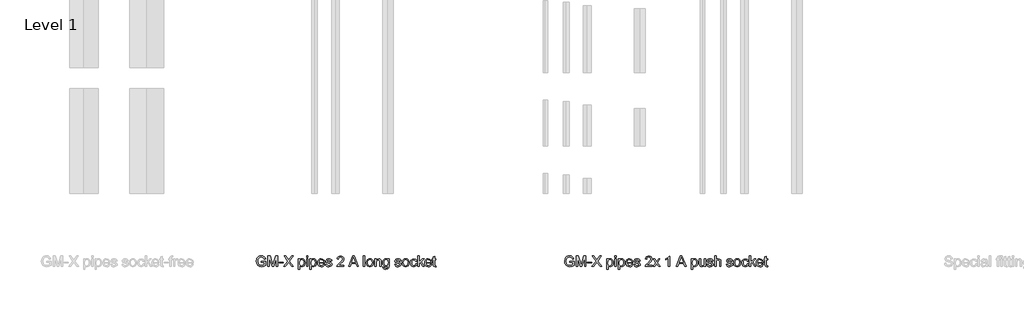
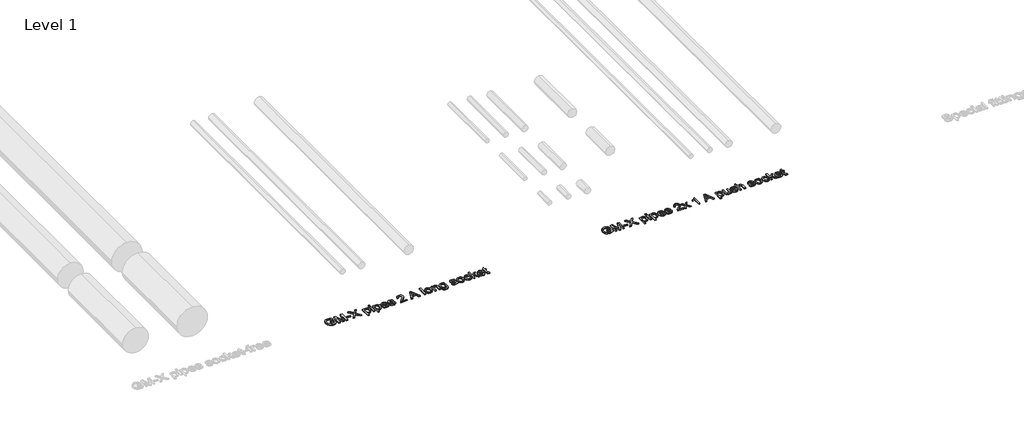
# One storey, part 7 of 8: 2 proxies.
"""IFC4 building model written with IfcOpenShell, lengths in millimetres."""

from ifc_helpers import new_model, si_unit, origin, origin_with_axes, place, context, project, spatial, polyline, outline, extrude, element, save

model = new_model("IFC4")

# Units and contexts
model_context = context("Model", 3, world=origin())
ifc_project = project(units=[si_unit("LENGTHUNIT", "METRE", prefix="MILLI")], contexts=[model_context])

# Site, building, storey
site = spatial("IfcSite", under=ifc_project)
building = spatial("IfcBuilding", under=site)
storey = spatial("IfcBuildingStorey", under=building, Name="Level 1", Elevation=0.0)

# Proxies
placement = place(None, origin())
element("IfcBuildingElementProxy", 1, Name="100mm ACO", ObjectType="100mm ACO", at=placement, inside=storey, context=model_context, shape_type="SweptSolid", body=[
    extrude(outline(polyline([(10835.1851852, -686.6608796), (10815.7769097, -698.0541088), (10794.6469907, -701.8518519), (10774.2657697, -698.3362269), (10758.2609954, -687.7893519), (10747.8985822, -671.412037), (10744.4444444, -650.4050926), (10750.072338, -623.900463), (10757.0348669, -613.0135995), (10766.6666667, -604.8900463), (10778.8556134, -599.8336227), (10793.4895833, -598.1481481), (10808.3260995, -600.0217014), (10819.9074074, -605.6423611), (10828.2407407, -615.0028935), (10833.3333333, -628.0960648), (10820.3703704, -631.4814815), (10816.6124132, -621.7773438), (10810.7204861, -614.8292824), (10802.6945891, -610.651765), (10792.5347222, -609.2592593), (10777.2750289, -612.0659722), (10766.2760417, -620.4861111), (10759.624566, -633.4490741), (10757.4074074, -649.8842593), (10761.791088, -672.4971065), (10774.7974537, -686.1255787), (10793.5474537, -690.7407407), (10808.4129051, -687.9340278), (10822.2222222, -679.5138889), (10822.2222222, -659.2592593), (10792.5925926, -659.2592593), (10792.5925926, -648.1481481), (10835.1851852, -648.1481481), (10835.1851852, -686.6608796)])), origin_with_axes(), (0.0, 0.0, 1.0), 10.0),
    extrude(outline(polyline([(10948.1481481, -700.0), (10935.1851852, -700.0), (10935.1851852, -616.2037037), (10909.6643519, -700.0), (10895.8912037, -700.0), (10868.8946759, -614.84375), (10868.5185185, -700.0), (10855.5555556, -700.0), (10855.5555556, -600.0), (10875.2604167, -600.0), (10898.0902778, -670.8622685), (10902.5173611, -685.6770833), (10907.5231481, -669.6469907), (10928.8773148, -600.0), (10948.1481481, -600.0), (10948.1481481, -700.0)])), origin_with_axes(), (0.0, 0.0, 1.0), 10.0),
    extrude(outline(polyline([(11001.8518519, -666.6666667), (10962.962963, -666.6666667), (10962.962963, -657.4074074), (11001.8518519, -657.4074074), (11001.8518519, -666.6666667)])), origin_with_axes(), (0.0, 0.0, 1.0), 10.0),
    extrude(outline(polyline([(11098.1481481, -700.0), (11082.5231481, -700.0), (11061.6030093, -671.4699074), (11052.5462963, -658.7384259), (11021.3541667, -700.0), (11005.5555556, -700.0), (11044.5023148, -648.0902778), (11009.2592593, -600.0), (11024.8842593, -600.0), (11047.1643519, -630.4108796), (11052.3726852, -637.5578704), (11080.5266204, -600.0), (11096.2962963, -600.0), (11060.1851852, -648.1770833), (11098.1481481, -700.0)])), origin_with_axes(), (0.0, 0.0, 1.0), 10.0),
    extrude(outline(polyline([(11159.3894676, -636.4872685), (11167.8457755, -628.5662616), (11179.5138889, -625.9259259), (11191.8402778, -628.515625), (11201.2731481, -636.2847222), (11207.2627315, -648.2132523), (11209.2592593, -663.28125), (11207.0023148, -679.1702836), (11200.2314815, -691.4207176), (11190.1765046, -699.2440683), (11178.0671296, -701.8518519), (11167.6938657, -699.7251157), (11159.6064815, -693.3449074), (11159.2592593, -727.7777778), (11146.2962963, -727.7777778), (11146.2962963, -627.7777778), (11159.2592593, -627.7777778), (11159.3894676, -636.4872685)]), holes=[polyline([(11176.6493056, -692.5925926), (11184.4220197, -690.766059), (11190.7262731, -685.2864583), (11194.9037905, -676.1899595), (11196.2962963, -663.5127315), (11194.9544271, -651.4359086), (11190.9288194, -642.5202546), (11184.8126447, -637.0189525), (11177.1990741, -635.1851852), (11169.317853, -637.2287326), (11162.9774306, -643.359375), (11158.7999132, -652.7452257), (11157.4074074, -664.5543981), (11158.7420428, -676.66739), (11162.7459491, -685.4600694), (11168.891059, -690.8094618), (11176.6493056, -692.5925926)])]), origin_with_axes(), (0.0, 0.0, 1.0), 10.0),
    extrude(outline(polyline([(11237.037037, -612.962963), (11224.0740741, -612.962963), (11224.0740741, -600.0), (11237.037037, -600.0), (11237.037037, -612.962963)])), origin_with_axes(), (0.0, 0.0, 1.0), 10.0),
    extrude(outline(polyline([(11237.037037, -700.0), (11224.0740741, -700.0), (11224.0740741, -627.7777778), (11237.037037, -627.7777778), (11237.037037, -700.0)])), origin_with_axes(), (0.0, 0.0, 1.0), 10.0),
    extrude(outline(polyline([(11268.6487269, -636.4872685), (11277.1050347, -628.5662616), (11288.7731481, -625.9259259), (11301.099537, -628.515625), (11310.5324074, -636.2847222), (11316.5219907, -648.2132523), (11318.5185185, -663.28125), (11316.2615741, -679.1702836), (11309.4907407, -691.4207176), (11299.4357639, -699.2440683), (11287.3263889, -701.8518519), (11276.953125, -699.7251157), (11268.8657407, -693.3449074), (11268.5185185, -727.7777778), (11255.5555556, -727.7777778), (11255.5555556, -627.7777778), (11268.5185185, -627.7777778), (11268.6487269, -636.4872685)]), holes=[polyline([(11285.9085648, -692.5925926), (11293.6812789, -690.766059), (11299.9855324, -685.2864583), (11304.1630498, -676.1899595), (11305.5555556, -663.5127315), (11304.2136863, -651.4359086), (11300.1880787, -642.5202546), (11294.0719039, -637.0189525), (11286.4583333, -635.1851852), (11278.5771123, -637.2287326), (11272.2366898, -643.359375), (11268.0591725, -652.7452257), (11266.6666667, -664.5543981), (11268.0013021, -676.66739), (11272.0052083, -685.4600694), (11278.1503183, -690.8094618), (11285.9085648, -692.5925926)])]), origin_with_axes(), (0.0, 0.0, 1.0), 10.0),
    extrude(outline(polyline([(11396.2962963, -666.6666667), (11342.5925926, -666.6666667), (11344.6650752, -677.7922454), (11349.3778935, -685.9375), (11356.1595775, -690.9288194), (11364.4386574, -692.5925926), (11376.1140046, -688.9033565), (11383.3333333, -677.7777778), (11396.2962963, -679.2824074), (11391.9198495, -688.9033565), (11384.9826389, -696.0069444), (11375.7378472, -700.390625), (11364.4386574, -701.8518519), (11349.8517072, -699.3453414), (11338.8454861, -691.8258102), (11331.9335938, -679.9660012), (11329.6296296, -664.4386574), (11331.8504051, -648.900463), (11338.5127315, -636.6030093), (11349.2115162, -628.5951968), (11363.5416667, -625.9259259), (11378.7615741, -629.3836806), (11391.1892361, -641.1603009), (11395.0195313, -651.6963252), (11396.2962963, -666.6666667)]), holes=[polyline([(11383.3333333, -657.4074074), (11381.25, -647.2511574), (11376.5046296, -640.3935185), (11363.2233796, -635.1851852), (11355.3674769, -636.7332176), (11349.0451389, -641.3773148), (11342.5925926, -657.4074074), (11383.3333333, -657.4074074)])]), origin_with_axes(), (0.0, 0.0, 1.0), 10.0),
    extrude(outline(polyline([(11451.8518519, -648.1481481), (11447.0630787, -638.4259259), (11435.9953704, -635.1851852), (11424.681713, -637.962963), (11420.3703704, -646.0358796), (11423.2204861, -653.1828704), (11436.6608796, -657.0601852), (11454.3836806, -661.2268519), (11463.4259259, -667.5491898), (11466.6666667, -678.8773148), (11464.6556713, -687.8074363), (11458.6226852, -695.2112269), (11449.2259838, -700.1916956), (11437.1238426, -701.8518519), (11424.6491609, -700.4557292), (11415.234375, -696.2673611), (11408.8722512, -689.2939815), (11405.5555556, -679.5428241), (11418.5185185, -677.7777778), (11424.1174769, -688.9033565), (11437.1238426, -692.5925926), (11449.4212963, -688.7586806), (11453.7037037, -679.4270833), (11451.7795139, -673.4519676), (11446.9762731, -670.0810185), (11433.3912037, -667.1875), (11412.4565972, -659.375), (11407.4074074, -646.7881944), (11409.2773438, -638.5018808), (11414.8871528, -631.8142361), (11423.6581308, -627.3980035), (11435.0115741, -625.9259259), (11446.9437211, -627.2135417), (11455.8883102, -631.0763889), (11461.8453414, -637.5072338), (11464.8148148, -646.4988426), (11451.8518519, -648.1481481)])), origin_with_axes(), (0.0, 0.0, 1.0), 10.0),
    extrude(outline(polyline([(11579.6296296, -700.0), (11512.962963, -700.0), (11518.9236111, -684.4039352), (11540.943287, -662.7893519), (11558.7094907, -645.4571759), (11564.6773727, -636.4293981), (11566.6666667, -627.34375), (11561.2413194, -614.380787), (11547.5405093, -609.2592593), (11533.5069444, -614.3663194), (11529.2390046, -620.7356771), (11527.7777778, -629.6296296), (11514.8148148, -628.2407407), (11517.9542824, -616.1385995), (11525.0, -607.2627315), (11535.2141204, -601.8156829), (11547.8587963, -600.0), (11561.2160012, -602.0869502), (11571.2528935, -608.3478009), (11577.5354456, -617.5600405), (11579.6296296, -628.5011574), (11577.8790509, -638.4042245), (11572.6273148, -648.4375), (11545.1967593, -675.9548611), (11529.6296296, -690.7407407), (11579.6296296, -690.7407407), (11579.6296296, -700.0)])), origin_with_axes(), (0.0, 0.0, 1.0), 10.0),
    extrude(outline(polyline([(11718.9814815, -700.0), (11705.1793981, -700.0), (11693.2002315, -670.3703704), (11650.7523148, -670.3703704), (11639.2361111, -700.0), (11625.462963, -700.0), (11664.3229167, -600.0), (11678.5011574, -600.0), (11718.9814815, -700.0)]), holes=[polyline([(11688.6863426, -659.2592593), (11674.2621528, -622.5983796), (11671.2962963, -610.9375), (11666.6377315, -629.5138889), (11655.0925926, -659.2592593), (11688.6863426, -659.2592593)])]), origin_with_axes(), (0.0, 0.0, 1.0), 10.0),
    extrude(outline(polyline([(11779.6296296, -700.0), (11766.6666667, -700.0), (11766.6666667, -600.0), (11779.6296296, -600.0), (11779.6296296, -700.0)])), origin_with_axes(), (0.0, 0.0, 1.0), 10.0),
    extrude(outline(polyline([(11827.7488426, -625.9259259), (11840.9252025, -628.3203125), (11851.634838, -635.5034722), (11858.7420428, -647.0992477), (11861.1111111, -662.7314815), (11858.5467303, -681.0040509), (11850.853588, -692.9976852), (11839.94864, -699.6383102), (11827.7488426, -701.8518519), (11815.1584201, -699.5768229), (11804.3547454, -692.7517361), (11796.9220197, -680.9859664), (11794.4444444, -663.8888889), (11796.838831, -647.1715856), (11804.0219907, -635.3298611), (11814.7424769, -628.2769097), (11827.7488426, -625.9259259)]), holes=[polyline([(11827.7488426, -692.5925926), (11836.5559896, -690.5852141), (11842.9542824, -684.5630787), (11848.1481481, -663.4259259), (11846.6796875, -651.1429398), (11842.2743056, -642.3032407), (11835.7060185, -636.9646991), (11827.7488426, -635.1851852), (11819.63614, -636.9900174), (11813.1221065, -642.4045139), (11808.8360822, -651.3925058), (11807.4074074, -663.9178241), (11808.8614005, -676.3997396), (11813.2233796, -685.3732639), (11819.7627315, -690.7877604), (11827.7488426, -692.5925926)])]), origin_with_axes(), (0.0, 0.0, 1.0), 10.0),
    extrude(outline(polyline([(11935.1851852, -700.0), (11922.2222222, -700.0), (11922.2222222, -655.0347222), (11918.359375, -639.4386574), (11907.6099537, -635.1851852), (11897.583912, -637.9050926), (11890.8709491, -645.5729167), (11888.8888889, -659.5775463), (11888.8888889, -700.0), (11875.9259259, -700.0), (11875.9259259, -627.7777778), (11887.037037, -627.7777778), (11887.037037, -637.818287), (11896.9328704, -628.8917824), (11910.1851852, -625.9259259), (11921.556713, -627.9803241), (11930.3530093, -634.1290509), (11934.3605324, -642.8674769), (11935.1851852, -655.4108796), (11935.1851852, -700.0)])), origin_with_axes(), (0.0, 0.0, 1.0), 10.0),
    extrude(outline(polyline([(12012.962963, -689.3518519), (12009.9103009, -711.9936343), (11999.0451389, -723.6255787), (11980.3819444, -727.7777778), (11969.1659433, -726.3708044), (11959.9971065, -722.1498843), (11953.8881655, -714.7243924), (11951.8518519, -703.7037037), (11964.8148148, -705.7581019), (11969.3865741, -715.3211806), (11980.5844907, -718.5185185), (11993.8946759, -714.8292824), (11999.0596065, -705.8449074), (12000.0, -691.2326389), (11991.2254051, -697.8081597), (11980.4108796, -700.0), (11968.0193866, -697.3885995), (11958.3333333, -689.5543981), (11952.0833333, -677.7416088), (11950.0, -663.1944444), (11951.9820602, -648.5532407), (11957.9282407, -636.5740741), (11967.3755787, -628.587963), (11979.8611111, -625.9259259), (11990.9360532, -628.3058449), (11999.7395833, -635.4456019), (12000.0, -627.7777778), (12012.962963, -627.7777778), (12012.962963, -689.3518519)]), holes=[polyline([(11982.349537, -690.7407407), (11989.5616319, -689.134838), (11995.9201389, -684.3171296), (12000.3689236, -675.7233796), (12001.8518519, -662.7893519), (12000.4376447, -651.0018808), (11996.1950231, -642.3177083), (11989.8690683, -636.968316), (11982.2048611, -635.1851852), (11974.4827836, -637.0117188), (11968.3304398, -642.4913194), (11964.3048322, -651.1465567), (11962.962963, -662.5), (11964.3699363, -675.2170139), (11968.5908565, -683.9699074), (11974.8444734, -689.0480324), (11982.349537, -690.7407407)])]), origin_with_axes(), (0.0, 0.0, 1.0), 10.0),
    extrude(outline(polyline([(12111.1111111, -648.1481481), (12106.322338, -638.4259259), (12095.2546296, -635.1851852), (12083.9409722, -637.962963), (12079.6296296, -646.0358796), (12082.4797454, -653.1828704), (12095.9201389, -657.0601852), (12113.6429398, -661.2268519), (12122.6851852, -667.5491898), (12125.9259259, -678.8773148), (12123.9149306, -687.8074363), (12117.8819444, -695.2112269), (12108.4852431, -700.1916956), (12096.3831019, -701.8518519), (12083.9084201, -700.4557292), (12074.4936343, -696.2673611), (12068.1315104, -689.2939815), (12064.8148148, -679.5428241), (12077.7777778, -677.7777778), (12083.3767361, -688.9033565), (12096.3831019, -692.5925926), (12108.6805556, -688.7586806), (12112.962963, -679.4270833), (12111.0387731, -673.4519676), (12106.2355324, -670.0810185), (12092.650463, -667.1875), (12071.7158565, -659.375), (12066.6666667, -646.7881944), (12068.536603, -638.5018808), (12074.146412, -631.8142361), (12082.91739, -627.3980035), (12094.2708333, -625.9259259), (12106.2029803, -627.2135417), (12115.1475694, -631.0763889), (12121.1046007, -637.5072338), (12124.0740741, -646.4988426), (12111.1111111, -648.1481481)])), origin_with_axes(), (0.0, 0.0, 1.0), 10.0),
    extrude(outline(polyline([(12168.4895833, -625.9259259), (12181.6659433, -628.3203125), (12192.3755787, -635.5034722), (12199.4827836, -647.0992477), (12201.8518519, -662.7314815), (12199.2874711, -681.0040509), (12191.5943287, -692.9976852), (12180.6893808, -699.6383102), (12168.4895833, -701.8518519), (12155.8991609, -699.5768229), (12145.0954861, -692.7517361), (12137.6627604, -680.9859664), (12135.1851852, -663.8888889), (12137.5795718, -647.1715856), (12144.7627315, -635.3298611), (12155.4832176, -628.2769097), (12168.4895833, -625.9259259)]), holes=[polyline([(12168.4895833, -692.5925926), (12177.2967303, -690.5852141), (12183.6950231, -684.5630787), (12188.8888889, -663.4259259), (12187.4204282, -651.1429398), (12183.0150463, -642.3032407), (12176.4467593, -636.9646991), (12168.4895833, -635.1851852), (12160.3768808, -636.9900174), (12153.8628472, -642.4045139), (12149.5768229, -651.3925058), (12148.1481481, -663.9178241), (12149.6021412, -676.3997396), (12153.9641204, -685.3732639), (12160.5034722, -690.7877604), (12168.4895833, -692.5925926)])]), origin_with_axes(), (0.0, 0.0, 1.0), 10.0),
    extrude(outline(polyline([(12277.7777778, -675.5497685), (12273.7485532, -687.3553241), (12266.5798611, -695.5150463), (12257.2554977, -700.2676505), (12246.7592593, -701.8518519), (12232.4435764, -699.2621528), (12221.7881944, -691.4930556), (12215.1692708, -679.4487847), (12212.962963, -664.0335648), (12217.9976852, -641.3483796), (12230.5989583, -629.3836806), (12246.4988426, -625.9259259), (12265.9577546, -631.5827546), (12272.4934896, -638.566985), (12275.9259259, -648.2060185), (12262.962963, -650.0), (12257.0601852, -638.9033565), (12246.6435185, -635.1851852), (12237.6880787, -637.0695891), (12231.1921296, -642.7228009), (12227.2424769, -651.7541956), (12225.9259259, -663.7731481), (12227.2460938, -676.0018808), (12231.2065972, -685.083912), (12237.6555266, -690.7154225), (12246.4409722, -692.5925926), (12259.0422454, -687.962963), (12264.8148148, -674.0740741), (12277.7777778, -675.5497685)])), origin_with_axes(), (0.0, 0.0, 1.0), 10.0),
    extrude(outline(polyline([(12346.2962963, -700.0), (12333.4201389, -700.0), (12307.3206019, -662.037037), (12298.1481481, -670.3703704), (12298.1481481, -700.0), (12285.1851852, -700.0), (12285.1851852, -600.0), (12298.1481481, -600.0), (12298.1481481, -655.9895833), (12329.1377315, -627.7777778), (12344.9074074, -627.7777778), (12315.2199074, -654.8032407), (12346.2962963, -700.0)])), origin_with_axes(), (0.0, 0.0, 1.0), 10.0),
    extrude(outline(polyline([(12416.6666667, -666.6666667), (12362.962963, -666.6666667), (12365.0354456, -677.7922454), (12369.7482639, -685.9375), (12376.5299479, -690.9288194), (12384.8090278, -692.5925926), (12396.484375, -688.9033565), (12403.7037037, -677.7777778), (12416.6666667, -679.2824074), (12412.2902199, -688.9033565), (12405.3530093, -696.0069444), (12396.1082176, -700.390625), (12384.8090278, -701.8518519), (12370.2220775, -699.3453414), (12359.2158565, -691.8258102), (12352.3039641, -679.9660012), (12350.0, -664.4386574), (12352.2207755, -648.900463), (12358.8831019, -636.6030093), (12369.5818866, -628.5951968), (12383.912037, -625.9259259), (12399.1319444, -629.3836806), (12411.5596065, -641.1603009), (12415.3899016, -651.6963252), (12416.6666667, -666.6666667)]), holes=[polyline([(12403.7037037, -657.4074074), (12401.6203704, -647.2511574), (12396.875, -640.3935185), (12383.59375, -635.1851852), (12375.7378472, -636.7332176), (12369.4155093, -641.3773148), (12362.962963, -657.4074074), (12403.7037037, -657.4074074)])]), origin_with_axes(), (0.0, 0.0, 1.0), 10.0),
    extrude(outline(polyline([(12459.2592593, -701.0127315), (12450.1736111, -701.8518519), (12438.5850694, -698.9728009), (12434.1435185, -691.6666667), (12433.3333333, -679.3402778), (12433.3333333, -637.037037), (12424.0740741, -637.037037), (12424.0740741, -627.7777778), (12433.3333333, -627.7777778), (12433.3333333, -609.4328704), (12446.2962963, -601.8518519), (12446.2962963, -627.7777778), (12457.4074074, -627.7777778), (12457.4074074, -637.037037), (12446.2962963, -637.037037), (12446.2962963, -681.9444444), (12447.337963, -690.162037), (12452.6331019, -692.5925926), (12457.6678241, -692.5925926), (12459.2592593, -701.0127315)])), origin_with_axes(), (0.0, 0.0, 1.0), 10.0),
])
element("IfcBuildingElementProxy", 2, Name="100mm ACO", ObjectType="100mm ACO", at=placement, inside=storey, context=model_context, shape_type="SweptSolid", body=[
    extrude(outline(polyline([(13775.0, -686.6608796), (13755.5917245, -698.0541088), (13734.4618056, -701.8518519), (13714.0805845, -698.3362269), (13698.0758102, -687.7893519), (13687.713397, -671.412037), (13684.2592593, -650.4050926), (13689.8871528, -623.900463), (13696.8496817, -613.0135995), (13706.4814815, -604.8900463), (13718.6704282, -599.8336227), (13733.3043981, -598.1481481), (13748.1409144, -600.0217014), (13759.7222222, -605.6423611), (13768.0555556, -615.0028935), (13773.1481481, -628.0960648), (13760.1851852, -631.4814815), (13756.427228, -621.7773438), (13750.5353009, -614.8292824), (13742.5094039, -610.651765), (13732.349537, -609.2592593), (13717.0898438, -612.0659722), (13706.0908565, -620.4861111), (13699.4393808, -633.4490741), (13697.2222222, -649.8842593), (13701.6059028, -672.4971065), (13714.6122685, -686.1255787), (13733.3622685, -690.7407407), (13748.2277199, -687.9340278), (13762.037037, -679.5138889), (13762.037037, -659.2592593), (13732.4074074, -659.2592593), (13732.4074074, -648.1481481), (13775.0, -648.1481481), (13775.0, -686.6608796)])), origin_with_axes(), (0.0, 0.0, 1.0), 10.0),
    extrude(outline(polyline([(13887.962963, -700.0), (13875.0, -700.0), (13875.0, -616.2037037), (13849.4791667, -700.0), (13835.7060185, -700.0), (13808.7094907, -614.84375), (13808.3333333, -700.0), (13795.3703704, -700.0), (13795.3703704, -600.0), (13815.0752315, -600.0), (13837.9050926, -670.8622685), (13842.3321759, -685.6770833), (13847.337963, -669.6469907), (13868.6921296, -600.0), (13887.962963, -600.0), (13887.962963, -700.0)])), origin_with_axes(), (0.0, 0.0, 1.0), 10.0),
    extrude(outline(polyline([(13941.6666667, -666.6666667), (13902.7777778, -666.6666667), (13902.7777778, -657.4074074), (13941.6666667, -657.4074074), (13941.6666667, -666.6666667)])), origin_with_axes(), (0.0, 0.0, 1.0), 10.0),
    extrude(outline(polyline([(14037.962963, -700.0), (14022.337963, -700.0), (14001.4178241, -671.4699074), (13992.3611111, -658.7384259), (13961.1689815, -700.0), (13945.3703704, -700.0), (13984.3171296, -648.0902778), (13949.0740741, -600.0), (13964.6990741, -600.0), (13986.9791667, -630.4108796), (13992.1875, -637.5578704), (14020.3414352, -600.0), (14036.1111111, -600.0), (14000.0, -648.1770833), (14037.962963, -700.0)])), origin_with_axes(), (0.0, 0.0, 1.0), 10.0),
    extrude(outline(polyline([(14099.2042824, -636.4872685), (14107.6605903, -628.5662616), (14119.3287037, -625.9259259), (14131.6550926, -628.515625), (14141.087963, -636.2847222), (14147.0775463, -648.2132523), (14149.0740741, -663.28125), (14146.8171296, -679.1702836), (14140.0462963, -691.4207176), (14129.9913194, -699.2440683), (14117.8819444, -701.8518519), (14107.5086806, -699.7251157), (14099.4212963, -693.3449074), (14099.0740741, -727.7777778), (14086.1111111, -727.7777778), (14086.1111111, -627.7777778), (14099.0740741, -627.7777778), (14099.2042824, -636.4872685)]), holes=[polyline([(14116.4641204, -692.5925926), (14124.2368345, -690.766059), (14130.541088, -685.2864583), (14134.7186053, -676.1899595), (14136.1111111, -663.5127315), (14134.7692419, -651.4359086), (14130.7436343, -642.5202546), (14124.6274595, -637.0189525), (14117.0138889, -635.1851852), (14109.1326678, -637.2287326), (14102.7922454, -643.359375), (14098.614728, -652.7452257), (14097.2222222, -664.5543981), (14098.5568576, -676.66739), (14102.5607639, -685.4600694), (14108.7058738, -690.8094618), (14116.4641204, -692.5925926)])]), origin_with_axes(), (0.0, 0.0, 1.0), 10.0),
    extrude(outline(polyline([(14176.8518519, -612.962963), (14163.8888889, -612.962963), (14163.8888889, -600.0), (14176.8518519, -600.0), (14176.8518519, -612.962963)])), origin_with_axes(), (0.0, 0.0, 1.0), 10.0),
    extrude(outline(polyline([(14176.8518519, -700.0), (14163.8888889, -700.0), (14163.8888889, -627.7777778), (14176.8518519, -627.7777778), (14176.8518519, -700.0)])), origin_with_axes(), (0.0, 0.0, 1.0), 10.0),
    extrude(outline(polyline([(14208.4635417, -636.4872685), (14216.9198495, -628.5662616), (14228.587963, -625.9259259), (14240.9143519, -628.515625), (14250.3472222, -636.2847222), (14256.3368056, -648.2132523), (14258.3333333, -663.28125), (14256.0763889, -679.1702836), (14249.3055556, -691.4207176), (14239.2505787, -699.2440683), (14227.1412037, -701.8518519), (14216.7679398, -699.7251157), (14208.6805556, -693.3449074), (14208.3333333, -727.7777778), (14195.3703704, -727.7777778), (14195.3703704, -627.7777778), (14208.3333333, -627.7777778), (14208.4635417, -636.4872685)]), holes=[polyline([(14225.7233796, -692.5925926), (14233.4960938, -690.766059), (14239.8003472, -685.2864583), (14243.9778646, -676.1899595), (14245.3703704, -663.5127315), (14244.0285012, -651.4359086), (14240.0028935, -642.5202546), (14233.8867188, -637.0189525), (14226.2731481, -635.1851852), (14218.3919271, -637.2287326), (14212.0515046, -643.359375), (14207.8739873, -652.7452257), (14206.4814815, -664.5543981), (14207.8161169, -676.66739), (14211.8200231, -685.4600694), (14217.9651331, -690.8094618), (14225.7233796, -692.5925926)])]), origin_with_axes(), (0.0, 0.0, 1.0), 10.0),
    extrude(outline(polyline([(14336.1111111, -666.6666667), (14282.4074074, -666.6666667), (14284.47989, -677.7922454), (14289.1927083, -685.9375), (14295.9743924, -690.9288194), (14304.2534722, -692.5925926), (14315.9288194, -688.9033565), (14323.1481481, -677.7777778), (14336.1111111, -679.2824074), (14331.7346644, -688.9033565), (14324.7974537, -696.0069444), (14315.552662, -700.390625), (14304.2534722, -701.8518519), (14289.666522, -699.3453414), (14278.6603009, -691.8258102), (14271.7484086, -679.9660012), (14269.4444444, -664.4386574), (14271.6652199, -648.900463), (14278.3275463, -636.6030093), (14289.026331, -628.5951968), (14303.3564815, -625.9259259), (14318.5763889, -629.3836806), (14331.0040509, -641.1603009), (14334.8343461, -651.6963252), (14336.1111111, -666.6666667)]), holes=[polyline([(14323.1481481, -657.4074074), (14321.0648148, -647.2511574), (14316.3194444, -640.3935185), (14303.0381944, -635.1851852), (14295.1822917, -636.7332176), (14288.8599537, -641.3773148), (14282.4074074, -657.4074074), (14323.1481481, -657.4074074)])]), origin_with_axes(), (0.0, 0.0, 1.0), 10.0),
    extrude(outline(polyline([(14391.6666667, -648.1481481), (14386.8778935, -638.4259259), (14375.8101852, -635.1851852), (14364.4965278, -637.962963), (14360.1851852, -646.0358796), (14363.0353009, -653.1828704), (14376.4756944, -657.0601852), (14394.1984954, -661.2268519), (14403.2407407, -667.5491898), (14406.4814815, -678.8773148), (14404.4704861, -687.8074363), (14398.4375, -695.2112269), (14389.0407986, -700.1916956), (14376.9386574, -701.8518519), (14364.4639757, -700.4557292), (14355.0491898, -696.2673611), (14348.687066, -689.2939815), (14345.3703704, -679.5428241), (14358.3333333, -677.7777778), (14363.9322917, -688.9033565), (14376.9386574, -692.5925926), (14389.2361111, -688.7586806), (14393.5185185, -679.4270833), (14391.5943287, -673.4519676), (14386.791088, -670.0810185), (14373.2060185, -667.1875), (14352.271412, -659.375), (14347.2222222, -646.7881944), (14349.0921586, -638.5018808), (14354.7019676, -631.8142361), (14363.4729456, -627.3980035), (14374.8263889, -625.9259259), (14386.7585359, -627.2135417), (14395.703125, -631.0763889), (14401.6601563, -637.5072338), (14404.6296296, -646.4988426), (14391.6666667, -648.1481481)])), origin_with_axes(), (0.0, 0.0, 1.0), 10.0),
    extrude(outline(polyline([(14519.4444444, -700.0), (14452.7777778, -700.0), (14458.7384259, -684.4039352), (14480.7581019, -662.7893519), (14498.5243056, -645.4571759), (14504.4921875, -636.4293981), (14506.4814815, -627.34375), (14501.0561343, -614.380787), (14487.3553241, -609.2592593), (14473.3217593, -614.3663194), (14469.0538194, -620.7356771), (14467.5925926, -629.6296296), (14454.6296296, -628.2407407), (14457.7690972, -616.1385995), (14464.8148148, -607.2627315), (14475.0289352, -601.8156829), (14487.6736111, -600.0), (14501.030816, -602.0869502), (14511.0677083, -608.3478009), (14517.3502604, -617.5600405), (14519.4444444, -628.5011574), (14517.6938657, -638.4042245), (14512.4421296, -648.4375), (14485.0115741, -675.9548611), (14469.4444444, -690.7407407), (14519.4444444, -690.7407407), (14519.4444444, -700.0)])), origin_with_axes(), (0.0, 0.0, 1.0), 10.0),
    extrude(outline(polyline([(14595.3703704, -700.0), (14582.3206019, -700.0), (14562.0659722, -671.7013889), (14541.8113426, -700.0), (14528.7037037, -700.0), (14555.46875, -662.5868056), (14530.5555556, -627.7777778), (14543.6053241, -627.7777778), (14562.0081019, -653.443287), (14580.3819444, -627.7777778), (14593.5185185, -627.7777778), (14568.5763889, -662.6157407), (14595.3703704, -700.0)])), origin_with_axes(), (0.0, 0.0, 1.0), 10.0),
    extrude(outline(polyline([(14687.962963, -700.0), (14675.0, -700.0), (14675.0, -622.2222222), (14650.9259259, -637.037037), (14650.9259259, -627.7777778), (14669.1984954, -616.0590278), (14680.5555556, -601.8518519), (14687.962963, -601.8518519), (14687.962963, -700.0)])), origin_with_axes(), (0.0, 0.0, 1.0), 10.0),
    extrude(outline(polyline([(14843.9814815, -700.0), (14830.1793981, -700.0), (14818.2002315, -670.3703704), (14775.7523148, -670.3703704), (14764.2361111, -700.0), (14750.462963, -700.0), (14789.3229167, -600.0), (14803.5011574, -600.0), (14843.9814815, -700.0)]), holes=[polyline([(14813.6863426, -659.2592593), (14799.2621528, -622.5983796), (14796.2962963, -610.9375), (14791.6377315, -629.5138889), (14780.0925926, -659.2592593), (14813.6863426, -659.2592593)])]), origin_with_axes(), (0.0, 0.0, 1.0), 10.0),
    extrude(outline(polyline([(14904.759838, -636.4872685), (14913.2161458, -628.5662616), (14924.8842593, -625.9259259), (14937.2106481, -628.515625), (14946.6435185, -636.2847222), (14952.6331019, -648.2132523), (14954.6296296, -663.28125), (14952.3726852, -679.1702836), (14945.6018519, -691.4207176), (14935.546875, -699.2440683), (14923.4375, -701.8518519), (14913.0642361, -699.7251157), (14904.9768519, -693.3449074), (14904.6296296, -727.7777778), (14891.6666667, -727.7777778), (14891.6666667, -627.7777778), (14904.6296296, -627.7777778), (14904.759838, -636.4872685)]), holes=[polyline([(14922.0196759, -692.5925926), (14929.79239, -690.766059), (14936.0966435, -685.2864583), (14940.2741609, -676.1899595), (14941.6666667, -663.5127315), (14940.3247975, -651.4359086), (14936.2991898, -642.5202546), (14930.183015, -637.0189525), (14922.5694444, -635.1851852), (14914.6882234, -637.2287326), (14908.3478009, -643.359375), (14904.1702836, -652.7452257), (14902.7777778, -664.5543981), (14904.1124132, -676.66739), (14908.1163194, -685.4600694), (14914.2614294, -690.8094618), (14922.0196759, -692.5925926)])]), origin_with_axes(), (0.0, 0.0, 1.0), 10.0),
    extrude(outline(polyline([(15028.7037037, -700.0), (15017.5925926, -700.0), (15017.5925926, -689.4965278), (15007.349537, -698.7630208), (14994.3865741, -701.8518519), (14980.2662037, -698.3362269), (14971.6145833, -688.6574074), (14969.4444444, -672.65625), (14969.4444444, -627.7777778), (14982.4074074, -627.7777778), (14982.4074074, -668.75), (14983.3043981, -682.8414352), (14987.9918981, -689.84375), (14997.0196759, -692.5925926), (15009.765625, -687.6736111), (15014.2469618, -680.1215278), (15015.7407407, -667.3032407), (15015.7407407, -627.7777778), (15028.7037037, -627.7777778), (15028.7037037, -700.0)])), origin_with_axes(), (0.0, 0.0, 1.0), 10.0),
    extrude(outline(polyline([(15087.962963, -648.1481481), (15083.1741898, -638.4259259), (15072.1064815, -635.1851852), (15060.7928241, -637.962963), (15056.4814815, -646.0358796), (15059.3315972, -653.1828704), (15072.7719907, -657.0601852), (15090.4947917, -661.2268519), (15099.537037, -667.5491898), (15102.7777778, -678.8773148), (15100.7667824, -687.8074363), (15094.7337963, -695.2112269), (15085.3370949, -700.1916956), (15073.2349537, -701.8518519), (15060.760272, -700.4557292), (15051.3454861, -696.2673611), (15044.9833623, -689.2939815), (15041.6666667, -679.5428241), (15054.6296296, -677.7777778), (15060.228588, -688.9033565), (15073.2349537, -692.5925926), (15085.5324074, -688.7586806), (15089.8148148, -679.4270833), (15087.890625, -673.4519676), (15083.0873843, -670.0810185), (15069.5023148, -667.1875), (15048.5677083, -659.375), (15043.5185185, -646.7881944), (15045.3884549, -638.5018808), (15050.9982639, -631.8142361), (15059.7692419, -627.3980035), (15071.1226852, -625.9259259), (15083.0548322, -627.2135417), (15091.9994213, -631.0763889), (15097.9564525, -637.5072338), (15100.9259259, -646.4988426), (15087.962963, -648.1481481)])), origin_with_axes(), (0.0, 0.0, 1.0), 10.0),
    extrude(outline(polyline([(15175.0, -700.0), (15162.037037, -700.0), (15162.037037, -653.2986111), (15158.3478009, -639.7135417), (15147.337963, -635.1851852), (15134.4039352, -640.5237269), (15130.1287616, -647.9564525), (15128.7037037, -659.5775463), (15128.7037037, -700.0), (15115.7407407, -700.0), (15115.7407407, -600.0), (15128.7037037, -600.0), (15128.7037037, -635.8217593), (15138.4042245, -628.3998843), (15150.2604167, -625.9259259), (15163.5416667, -628.7905093), (15172.4392361, -637.6012731), (15175.0, -654.1087963), (15175.0, -700.0)])), origin_with_axes(), (0.0, 0.0, 1.0), 10.0),
    extrude(outline(polyline([(15273.1481481, -648.1481481), (15268.359375, -638.4259259), (15257.2916667, -635.1851852), (15245.9780093, -637.962963), (15241.6666667, -646.0358796), (15244.5167824, -653.1828704), (15257.9571759, -657.0601852), (15275.6799769, -661.2268519), (15284.7222222, -667.5491898), (15287.962963, -678.8773148), (15285.9519676, -687.8074363), (15279.9189815, -695.2112269), (15270.5222801, -700.1916956), (15258.4201389, -701.8518519), (15245.9454572, -700.4557292), (15236.5306713, -696.2673611), (15230.1685475, -689.2939815), (15226.8518519, -679.5428241), (15239.8148148, -677.7777778), (15245.4137731, -688.9033565), (15258.4201389, -692.5925926), (15270.7175926, -688.7586806), (15275.0, -679.4270833), (15273.0758102, -673.4519676), (15268.2725694, -670.0810185), (15254.6875, -667.1875), (15233.7528935, -659.375), (15228.7037037, -646.7881944), (15230.57364, -638.5018808), (15236.1834491, -631.8142361), (15244.9544271, -627.3980035), (15256.3078704, -625.9259259), (15268.2400174, -627.2135417), (15277.1846065, -631.0763889), (15283.1416377, -637.5072338), (15286.1111111, -646.4988426), (15273.1481481, -648.1481481)])), origin_with_axes(), (0.0, 0.0, 1.0), 10.0),
    extrude(outline(polyline([(15330.5266204, -625.9259259), (15343.7029803, -628.3203125), (15354.4126157, -635.5034722), (15361.5198206, -647.0992477), (15363.8888889, -662.7314815), (15361.3245081, -681.0040509), (15353.6313657, -692.9976852), (15342.7264178, -699.6383102), (15330.5266204, -701.8518519), (15317.9361979, -699.5768229), (15307.1325231, -692.7517361), (15299.6997975, -680.9859664), (15297.2222222, -663.8888889), (15299.6166088, -647.1715856), (15306.7997685, -635.3298611), (15317.5202546, -628.2769097), (15330.5266204, -625.9259259)]), holes=[polyline([(15330.5266204, -692.5925926), (15339.3337674, -690.5852141), (15345.7320602, -684.5630787), (15350.9259259, -663.4259259), (15349.4574653, -651.1429398), (15345.0520833, -642.3032407), (15338.4837963, -636.9646991), (15330.5266204, -635.1851852), (15322.4139178, -636.9900174), (15315.8998843, -642.4045139), (15311.61386, -651.3925058), (15310.1851852, -663.9178241), (15311.6391782, -676.3997396), (15316.0011574, -685.3732639), (15322.5405093, -690.7877604), (15330.5266204, -692.5925926)])]), origin_with_axes(), (0.0, 0.0, 1.0), 10.0),
    extrude(outline(polyline([(15439.8148148, -675.5497685), (15435.7855903, -687.3553241), (15428.6168981, -695.5150463), (15419.2925347, -700.2676505), (15408.7962963, -701.8518519), (15394.4806134, -699.2621528), (15383.8252315, -691.4930556), (15377.2063079, -679.4487847), (15375.0, -664.0335648), (15380.0347222, -641.3483796), (15392.6359954, -629.3836806), (15408.5358796, -625.9259259), (15427.9947917, -631.5827546), (15434.5305266, -638.566985), (15437.962963, -648.2060185), (15425.0, -650.0), (15419.0972222, -638.9033565), (15408.6805556, -635.1851852), (15399.7251157, -637.0695891), (15393.2291667, -642.7228009), (15389.2795139, -651.7541956), (15387.962963, -663.7731481), (15389.2831308, -676.0018808), (15393.2436343, -685.083912), (15399.6925637, -690.7154225), (15408.4780093, -692.5925926), (15421.0792824, -687.962963), (15426.8518519, -674.0740741), (15439.8148148, -675.5497685)])), origin_with_axes(), (0.0, 0.0, 1.0), 10.0),
    extrude(outline(polyline([(15508.3333333, -700.0), (15495.4571759, -700.0), (15469.3576389, -662.037037), (15460.1851852, -670.3703704), (15460.1851852, -700.0), (15447.2222222, -700.0), (15447.2222222, -600.0), (15460.1851852, -600.0), (15460.1851852, -655.9895833), (15491.1747685, -627.7777778), (15506.9444444, -627.7777778), (15477.2569444, -654.8032407), (15508.3333333, -700.0)])), origin_with_axes(), (0.0, 0.0, 1.0), 10.0),
    extrude(outline(polyline([(15578.7037037, -666.6666667), (15525.0, -666.6666667), (15527.0724826, -677.7922454), (15531.7853009, -685.9375), (15538.566985, -690.9288194), (15546.8460648, -692.5925926), (15558.521412, -688.9033565), (15565.7407407, -677.7777778), (15578.7037037, -679.2824074), (15574.3272569, -688.9033565), (15567.3900463, -696.0069444), (15558.1452546, -700.390625), (15546.8460648, -701.8518519), (15532.2591146, -699.3453414), (15521.2528935, -691.8258102), (15514.3410012, -679.9660012), (15512.037037, -664.4386574), (15514.2578125, -648.900463), (15520.9201389, -636.6030093), (15531.6189236, -628.5951968), (15545.9490741, -625.9259259), (15561.1689815, -629.3836806), (15573.5966435, -641.1603009), (15577.4269387, -651.6963252), (15578.7037037, -666.6666667)]), holes=[polyline([(15565.7407407, -657.4074074), (15563.6574074, -647.2511574), (15558.912037, -640.3935185), (15545.630787, -635.1851852), (15537.7748843, -636.7332176), (15531.4525463, -641.3773148), (15525.0, -657.4074074), (15565.7407407, -657.4074074)])]), origin_with_axes(), (0.0, 0.0, 1.0), 10.0),
    extrude(outline(polyline([(15621.2962963, -701.0127315), (15612.2106481, -701.8518519), (15600.6221065, -698.9728009), (15596.1805556, -691.6666667), (15595.3703704, -679.3402778), (15595.3703704, -637.037037), (15586.1111111, -637.037037), (15586.1111111, -627.7777778), (15595.3703704, -627.7777778), (15595.3703704, -609.4328704), (15608.3333333, -601.8518519), (15608.3333333, -627.7777778), (15619.4444444, -627.7777778), (15619.4444444, -637.037037), (15608.3333333, -637.037037), (15608.3333333, -681.9444444), (15609.375, -690.162037), (15614.6701389, -692.5925926), (15619.7048611, -692.5925926), (15621.2962963, -701.0127315)])), origin_with_axes(), (0.0, 0.0, 1.0), 10.0),
])

save(model, "model.ifc")
